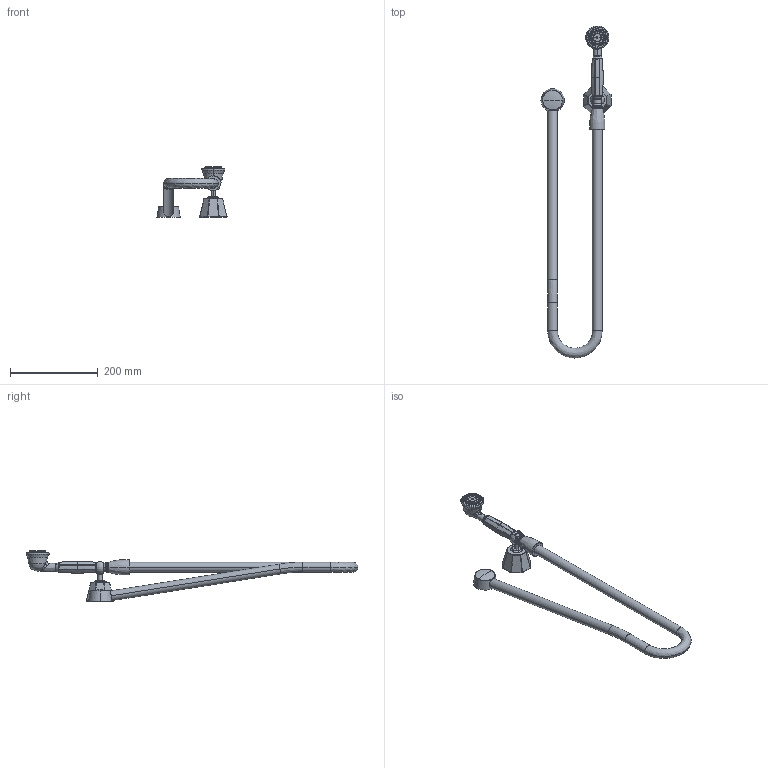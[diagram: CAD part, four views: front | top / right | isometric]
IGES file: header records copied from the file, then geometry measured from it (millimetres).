
Start section:  PTC IGES file: sku_s145.igs
Global section: file name: sku_s145.igs; native system: Pro/ENGINEER by Parametric Technology Corporation; preprocessor: 2006460; author: 9dutterb; organization: Unknown; date: 20071106.121526; units: inch
Bounding box: 159.22 x 754.71 x 115.16 mm (x, y, z)
Surface area: 128366.5 mm2 (no closed solid volume)
Topology: 0 solids, 0 shells, 276 faces, 1175 edges, 1171 vertices
Faces by surface type: revolution 187, bspline 89
